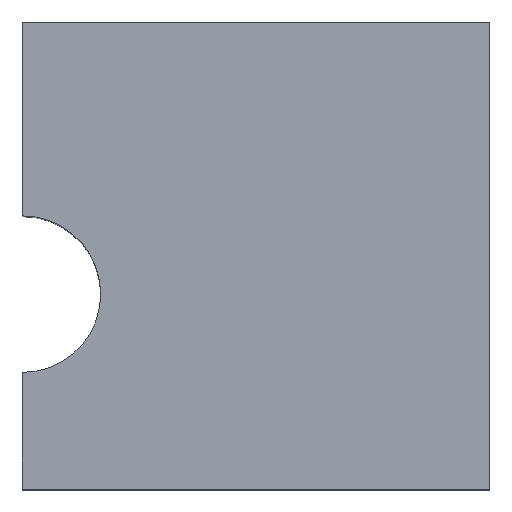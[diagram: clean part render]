
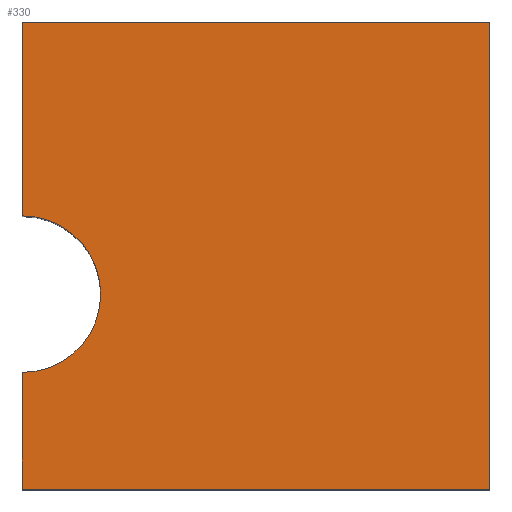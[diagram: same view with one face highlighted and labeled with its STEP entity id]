
A CAD part, top view. The second image highlights one B-rep face of the part: STEP entity #330.
In plain terms, the highlighted planar face has unit normal (0, 0, 1).
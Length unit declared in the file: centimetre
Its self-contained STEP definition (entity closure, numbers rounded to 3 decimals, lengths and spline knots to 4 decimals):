
#7 = DIRECTION ( 'NONE',  ( 1., 0., 0. ) ) ;
#47 = VERTEX_POINT ( 'NONE', #288 ) ;
#69 = VERTEX_POINT ( 'NONE', #418 ) ;
#74 = DIRECTION ( 'NONE',  ( 1., 0., 0. ) ) ;
#81 = VECTOR ( 'NONE', #309, 100. ) ;
#82 = DIRECTION ( 'NONE',  ( 0., 0., 1. ) ) ;
#83 = CARTESIAN_POINT ( 'NONE',  ( 0., 0., 1000. ) ) ;
#101 = VECTOR ( 'NONE', #488, 100. ) ;
#117 = EDGE_CURVE ( 'NONE', #393, #211, #203, .T. ) ;
#123 = CARTESIAN_POINT ( 'NONE',  ( 1000., 0., 1000. ) ) ;
#134 = DIRECTION ( 'NONE',  ( 1., 0., 0. ) ) ;
#137 = PLANE ( 'NONE',  #333 ) ;
#179 = EDGE_CURVE ( 'NONE', #296, #69, #229, .T. ) ;
#183 = ORIENTED_EDGE ( 'NONE', *, *, #349, .F. ) ;
#185 = CARTESIAN_POINT ( 'NONE',  ( 0., 1000., 1000. ) ) ;
#186 = VERTEX_POINT ( 'NONE', #123 ) ;
#203 = LINE ( 'NONE', #424, #463 ) ;
#206 = ORIENTED_EDGE ( 'NONE', *, *, #179, .F. ) ;
#211 = VERTEX_POINT ( 'NONE', #268 ) ;
#219 = EDGE_CURVE ( 'NONE', #186, #393, #397, .T. ) ;
#229 = CIRCLE ( 'NONE', #343, 167.5548 ) ;
#260 = VECTOR ( 'NONE', #367, 100. ) ;
#268 = CARTESIAN_POINT ( 'NONE',  ( 0., 1000., 1000. ) ) ;
#274 = DIRECTION ( 'NONE',  ( 1., 0., 0. ) ) ;
#288 = CARTESIAN_POINT ( 'NONE',  ( 0., 249.9219, 1000. ) ) ;
#296 = VERTEX_POINT ( 'NONE', #318 ) ;
#305 = EDGE_CURVE ( 'NONE', #47, #412, #370, .T. ) ;
#309 = DIRECTION ( 'NONE',  ( 0., 1., 0. ) ) ;
#315 = DIRECTION ( 'NONE',  ( 0., 0., 1. ) ) ;
#318 = CARTESIAN_POINT ( 'NONE',  ( 167.5548, 417.4767, 1000. ) ) ;
#330 = ADVANCED_FACE ( 'NONE', ( #538 ), #137, .T. ) ;
#333 = AXIS2_PLACEMENT_3D ( 'NONE', #411, #315, #274 ) ;
#343 = AXIS2_PLACEMENT_3D ( 'NONE', #353, #82, #74 ) ;
#349 = EDGE_CURVE ( 'NONE', #47, #296, #508, .T. ) ;
#353 = CARTESIAN_POINT ( 'NONE',  ( 0., 417.4767, 1000. ) ) ;
#354 = LINE ( 'NONE', #575, #101 ) ;
#358 = CARTESIAN_POINT ( 'NONE',  ( 0., 417.4767, 1000. ) ) ;
#367 = DIRECTION ( 'NONE',  ( 0., -1., 0. ) ) ;
#370 = LINE ( 'NONE', #185, #260 ) ;
#383 = ORIENTED_EDGE ( 'NONE', *, *, #219, .T. ) ;
#385 = DIRECTION ( 'NONE',  ( -1., 0., 0. ) ) ;
#393 = VERTEX_POINT ( 'NONE', #405 ) ;
#397 = LINE ( 'NONE', #447, #81 ) ;
#404 = EDGE_CURVE ( 'NONE', #412, #186, #578, .T. ) ;
#405 = CARTESIAN_POINT ( 'NONE',  ( 1000., 1000., 1000. ) ) ;
#411 = CARTESIAN_POINT ( 'NONE',  ( 0., 0., 1000. ) ) ;
#412 = VERTEX_POINT ( 'NONE', #83 ) ;
#418 = CARTESIAN_POINT ( 'NONE',  ( 0., 585.0315, 1000. ) ) ;
#424 = CARTESIAN_POINT ( 'NONE',  ( 0., 1000., 1000. ) ) ;
#447 = CARTESIAN_POINT ( 'NONE',  ( 1000., 1000., 1000. ) ) ;
#459 = ORIENTED_EDGE ( 'NONE', *, *, #305, .T. ) ;
#463 = VECTOR ( 'NONE', #385, 100. ) ;
#464 = VECTOR ( 'NONE', #134, 100. ) ;
#488 = DIRECTION ( 'NONE',  ( 0., -1., 0. ) ) ;
#508 = CIRCLE ( 'NONE', #535, 167.5548 ) ;
#511 = EDGE_CURVE ( 'NONE', #211, #69, #354, .T. ) ;
#525 = ORIENTED_EDGE ( 'NONE', *, *, #404, .T. ) ;
#534 = CARTESIAN_POINT ( 'NONE',  ( 0., 0., 1000. ) ) ;
#535 = AXIS2_PLACEMENT_3D ( 'NONE', #358, #541, #7 ) ;
#538 = FACE_OUTER_BOUND ( 'NONE', #555, .T. ) ;
#541 = DIRECTION ( 'NONE',  ( 0., 0., 1. ) ) ;
#543 = ORIENTED_EDGE ( 'NONE', *, *, #117, .T. ) ;
#555 = EDGE_LOOP ( 'NONE', ( #183, #459, #525, #383, #543, #559, #206 ) ) ;
#559 = ORIENTED_EDGE ( 'NONE', *, *, #511, .T. ) ;
#575 = CARTESIAN_POINT ( 'NONE',  ( 0., 1000., 1000. ) ) ;
#578 = LINE ( 'NONE', #534, #464 ) ;
